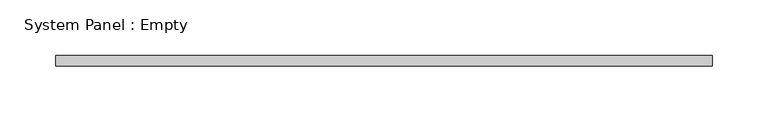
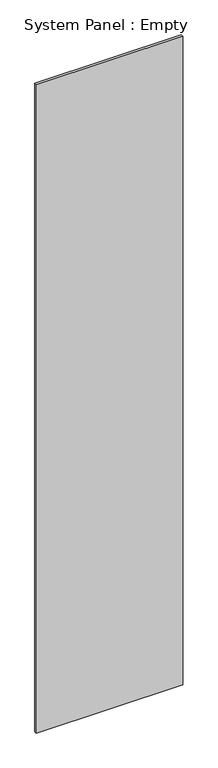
"""IFC4 building model written with IfcOpenShell, lengths in millimetres: plate geometry, System Panel : Empty."""

from ifc_helpers import new_model, si_unit, origin, origin_with_axes, place, context, project, spatial, polyline, outline, extrude, source, transform, mapped, element, save


def system_panel_empty_eeddd460(model_context):
    return source(origin(), model_context, "Body", "SweptSolid", [
        extrude(outline(polyline([(295.2750002, -4.7625), (-295.2750002, -4.7625), (-295.2750002, 4.7625), (295.2750002, 4.7625), (295.2750002, -4.7625)])), origin_with_axes(), (0.0, 0.0, 1.0), 2764.1056955),
    ])


if __name__ == "__main__":
    model = new_model("IFC4")
    model_context = context("Model", 3, world=origin())
    ifc_project = project(units=[si_unit("LENGTHUNIT", "METRE", prefix="MILLI")], contexts=[model_context])
    site = spatial("IfcSite", under=ifc_project)
    building = spatial("IfcBuilding", under=site)
    placement = place(None, origin())
    system_panel_empty_shape = system_panel_empty_eeddd460(model_context)
    element("IfcPlate", 1, ObjectType="System Panel : Empty", at=placement, inside=building, context=model_context, shape_type="MappedRepresentation", body=[
        mapped(system_panel_empty_shape, transform((0.0, 0.0, 0.0), x_axis=(1.0, 0.0, 0.0), y_axis=(0.0, 1.0, 0.0), z_axis=(0.0, 0.0, 1.0))),
    ])
    save(model, "model.ifc")
